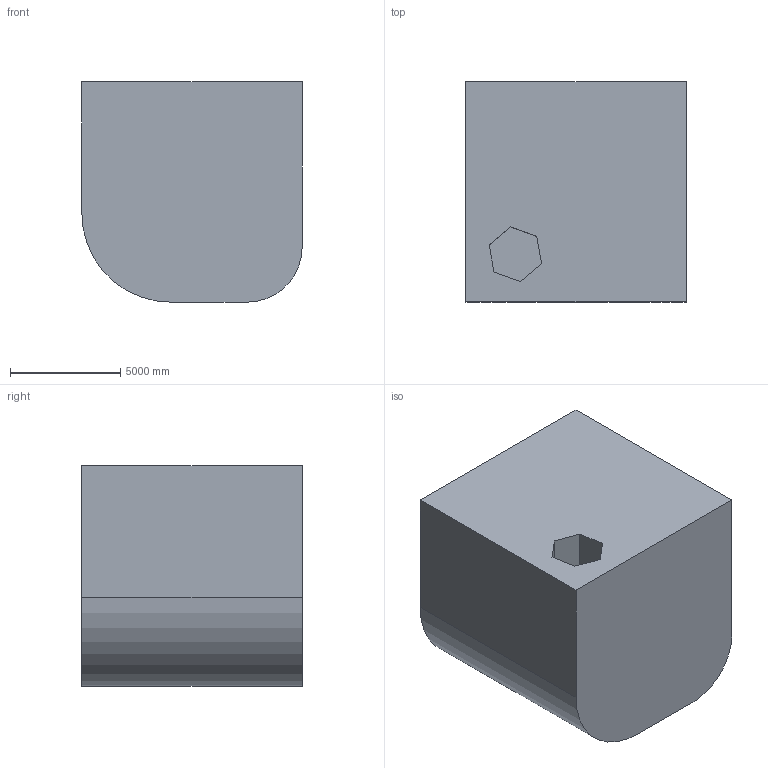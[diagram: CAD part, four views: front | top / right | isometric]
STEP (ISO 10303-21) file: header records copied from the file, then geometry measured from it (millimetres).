
FILE_DESCRIPTION (( 'STEP AP203' ), '1' );
FILE_NAME ('127.STEP', '2022-09-06T15:09:07', ( 'user' ), ( '' ), 'SwSTEP 2.0', 'SolidWorks 2021', '' );
FILE_SCHEMA (( 'CONFIG_CONTROL_DESIGN' ));
Length unit declared in the file: centimetre
Products named in the file (1): 127
Bounding box: 10000 x 10000 x 10000 mm (x, y, z)
Volume: 931656976012.5 mm3; surface area: 599067684.4 mm2
Topology: 1 solids, 1 shells, 15 faces, 36 edges, 24 vertices
Faces by surface type: plane 13, cylinder 2
Entity records: 511 total; most frequent: CARTESIAN_POINT 76, DIRECTION 72, ORIENTED_EDGE 72, EDGE_CURVE 36, VECTOR 32, LINE 32, VERTEX_POINT 24, AXIS2_PLACEMENT_3D 20
